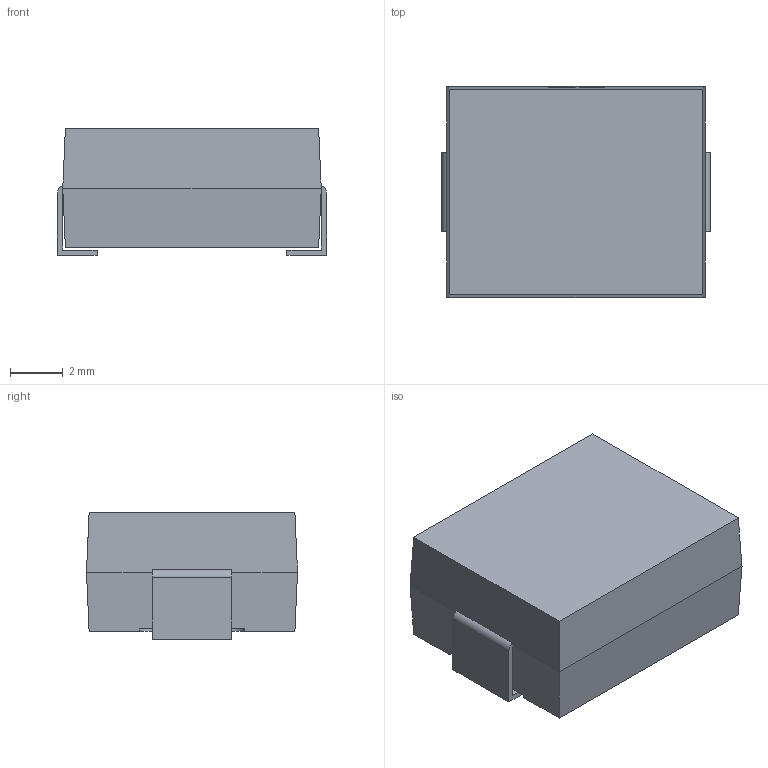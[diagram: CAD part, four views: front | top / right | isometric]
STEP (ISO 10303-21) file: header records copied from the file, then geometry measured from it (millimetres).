
FILE_DESCRIPTION (( 'STEP AP214' ), '1' );
FILE_NAME ('RES-SMD_L10.2-W8.0-H4.5.step', '2022-07-28T08:56:41', ( '' ), ( '' ), 'SwSTEP 2.0', 'SolidWorks 2020', '' );
FILE_SCHEMA (( 'AUTOMOTIVE_DESIGN' ));
Length unit declared in the file: millimetre
Products named in the file (1): RES-SMD_L10.2-W8.0-H4.5
Bounding box: 10.2 x 8 x 4.8 mm (x, y, z)
Volume: 348 mm3; surface area: 358.1 mm2
Topology: 1 solids, 1 shells, 264 faces, 725 edges, 482 vertices
Faces by surface type: plane 158, bspline 98, cylinder 8
Entity records: 11763 total; most frequent: CARTESIAN_POINT 2778, ORIENTED_EDGE 1450, DIRECTION 875, EDGE_CURVE 725, LINE 509, VECTOR 509, VERTEX_POINT 482, EDGE_LOOP 283
